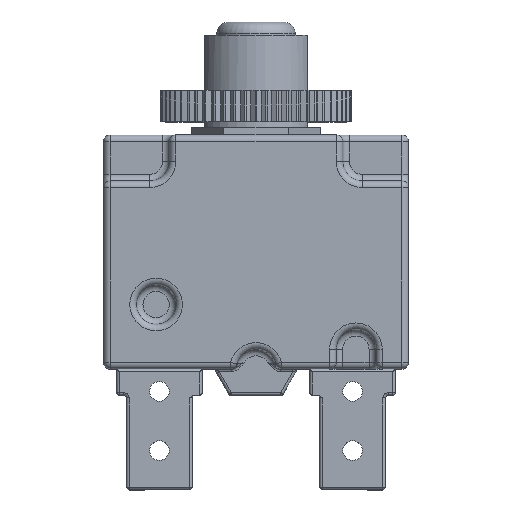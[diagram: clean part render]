
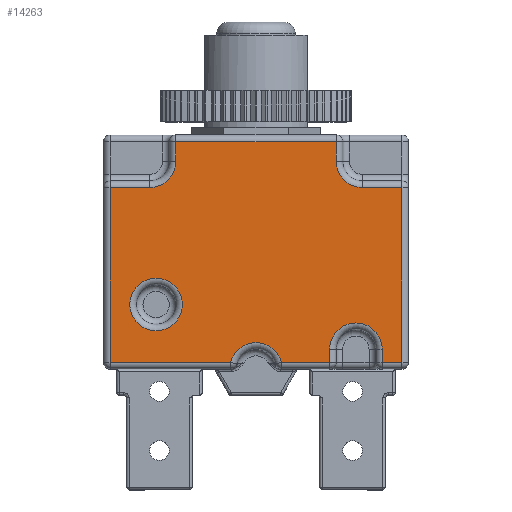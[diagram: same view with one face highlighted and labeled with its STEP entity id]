
A CAD part, top view. The second image highlights one B-rep face of the part: STEP entity #14263.
In plain terms, the highlighted planar face has unit normal (0, 0, 1).
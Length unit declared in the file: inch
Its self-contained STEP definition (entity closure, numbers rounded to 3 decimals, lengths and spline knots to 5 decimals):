
#114=FACE_BOUND('',#4067,.T.);
#393=PLANE('',#15408);
#653=LINE('',#22426,#1643);
#654=LINE('',#22434,#1644);
#655=LINE('',#22438,#1645);
#656=LINE('',#22440,#1646);
#657=LINE('',#22442,#1647);
#658=LINE('',#22444,#1648);
#659=LINE('',#22448,#1649);
#660=LINE('',#22450,#1650);
#661=LINE('',#22452,#1651);
#662=LINE('',#22456,#1652);
#663=LINE('',#22458,#1653);
#664=LINE('',#22460,#1654);
#1643=VECTOR('',#17487,0.3937);
#1644=VECTOR('',#17498,0.3937);
#1645=VECTOR('',#17501,0.3937);
#1646=VECTOR('',#17502,0.3937);
#1647=VECTOR('',#17503,0.3937);
#1648=VECTOR('',#17504,0.3937);
#1649=VECTOR('',#17507,0.3937);
#1650=VECTOR('',#17508,0.3937);
#1651=VECTOR('',#17509,0.3937);
#1652=VECTOR('',#17512,0.3937);
#1653=VECTOR('',#17513,0.3937);
#1654=VECTOR('',#17514,0.3937);
#3088=FACE_OUTER_BOUND('',#4066,.T.);
#4066=EDGE_LOOP('',(#9642,#9643,#9644,#9645,#9646,#9647,#9648,#9649,#9650,
#9651,#9652,#9653,#9654,#9655,#9656,#9657));
#4067=EDGE_LOOP('',(#9658));
#5068=CIRCLE('',#15409,0.1);
#5069=CIRCLE('',#15410,0.1);
#5070=CIRCLE('',#15411,0.1);
#5071=CIRCLE('',#15412,0.1);
#5072=CIRCLE('',#15413,0.1);
#6064=VERTEX_POINT('',#22419);
#6066=VERTEX_POINT('',#22425);
#6068=VERTEX_POINT('',#22433);
#6069=VERTEX_POINT('',#22435);
#6070=VERTEX_POINT('',#22437);
#6071=VERTEX_POINT('',#22439);
#6072=VERTEX_POINT('',#22441);
#6073=VERTEX_POINT('',#22443);
#6074=VERTEX_POINT('',#22445);
#6075=VERTEX_POINT('',#22447);
#6076=VERTEX_POINT('',#22449);
#6077=VERTEX_POINT('',#22451);
#6078=VERTEX_POINT('',#22453);
#6079=VERTEX_POINT('',#22455);
#6080=VERTEX_POINT('',#22457);
#6081=VERTEX_POINT('',#22459);
#6082=VERTEX_POINT('',#22462);
#7357=EDGE_CURVE('',#6064,#6066,#653,.T.);
#7361=EDGE_CURVE('',#6068,#6064,#654,.T.);
#7362=EDGE_CURVE('',#6069,#6068,#5068,.T.);
#7363=EDGE_CURVE('',#6070,#6069,#655,.T.);
#7364=EDGE_CURVE('',#6071,#6070,#656,.T.);
#7365=EDGE_CURVE('',#6072,#6071,#657,.T.);
#7366=EDGE_CURVE('',#6073,#6072,#658,.T.);
#7367=EDGE_CURVE('',#6074,#6073,#5069,.T.);
#7368=EDGE_CURVE('',#6075,#6074,#659,.T.);
#7369=EDGE_CURVE('',#6076,#6075,#660,.T.);
#7370=EDGE_CURVE('',#6077,#6076,#661,.T.);
#7371=EDGE_CURVE('',#6078,#6077,#5070,.T.);
#7372=EDGE_CURVE('',#6079,#6078,#662,.T.);
#7373=EDGE_CURVE('',#6080,#6079,#663,.T.);
#7374=EDGE_CURVE('',#6081,#6080,#664,.T.);
#7375=EDGE_CURVE('',#6066,#6081,#5071,.T.);
#7376=EDGE_CURVE('',#6082,#6082,#5072,.T.);
#9642=ORIENTED_EDGE('',*,*,#7357,.F.);
#9643=ORIENTED_EDGE('',*,*,#7361,.F.);
#9644=ORIENTED_EDGE('',*,*,#7362,.F.);
#9645=ORIENTED_EDGE('',*,*,#7363,.F.);
#9646=ORIENTED_EDGE('',*,*,#7364,.F.);
#9647=ORIENTED_EDGE('',*,*,#7365,.F.);
#9648=ORIENTED_EDGE('',*,*,#7366,.F.);
#9649=ORIENTED_EDGE('',*,*,#7367,.F.);
#9650=ORIENTED_EDGE('',*,*,#7368,.F.);
#9651=ORIENTED_EDGE('',*,*,#7369,.F.);
#9652=ORIENTED_EDGE('',*,*,#7370,.F.);
#9653=ORIENTED_EDGE('',*,*,#7371,.F.);
#9654=ORIENTED_EDGE('',*,*,#7372,.F.);
#9655=ORIENTED_EDGE('',*,*,#7373,.F.);
#9656=ORIENTED_EDGE('',*,*,#7374,.F.);
#9657=ORIENTED_EDGE('',*,*,#7375,.F.);
#9658=ORIENTED_EDGE('',*,*,#7376,.F.);
#14263=ADVANCED_FACE('',(#3088,#114),#393,.T.);
#15408=AXIS2_PLACEMENT_3D('',#22432,#17496,#17497);
#15409=AXIS2_PLACEMENT_3D('',#22436,#17499,#17500);
#15410=AXIS2_PLACEMENT_3D('',#22446,#17505,#17506);
#15411=AXIS2_PLACEMENT_3D('',#22454,#17510,#17511);
#15412=AXIS2_PLACEMENT_3D('',#22461,#17515,#17516);
#15413=AXIS2_PLACEMENT_3D('',#22463,#17517,#17518);
#17487=DIRECTION('',(-1.,0.,0.));
#17496=DIRECTION('center_axis',(0.,0.,1.));
#17497=DIRECTION('ref_axis',(1.,0.,0.));
#17498=DIRECTION('',(0.,-1.,0.));
#17499=DIRECTION('center_axis',(0.,0.,1.));
#17500=DIRECTION('ref_axis',(0.,1.,0.));
#17501=DIRECTION('',(0.,1.,0.));
#17502=DIRECTION('',(-1.,0.,0.));
#17503=DIRECTION('',(0.,-1.,0.));
#17504=DIRECTION('',(1.,0.,0.));
#17505=DIRECTION('center_axis',(0.,0.,1.));
#17506=DIRECTION('ref_axis',(-0.707,-0.707,0.));
#17507=DIRECTION('',(0.,-1.,0.));
#17508=DIRECTION('',(1.,0.,0.));
#17509=DIRECTION('',(0.,1.,0.));
#17510=DIRECTION('center_axis',(0.,0.,1.));
#17511=DIRECTION('ref_axis',(0.707,-0.707,0.));
#17512=DIRECTION('',(1.,0.,0.));
#17513=DIRECTION('',(0.,1.,0.));
#17514=DIRECTION('',(-1.,0.,0.));
#17515=DIRECTION('center_axis',(0.,0.,1.));
#17516=DIRECTION('ref_axis',(0.,1.,0.));
#17517=DIRECTION('center_axis',(0.,0.,1.));
#17518=DIRECTION('ref_axis',(-1.,0.,0.));
#22419=CARTESIAN_POINT('',(0.86,-0.42,0.57));
#22425=CARTESIAN_POINT('',(0.67682,-0.42,0.57));
#22426=CARTESIAN_POINT('',(0.29,-0.42,0.57));
#22432=CARTESIAN_POINT('Origin',(0.,0.,0.57));
#22433=CARTESIAN_POINT('',(0.86,-0.37,0.57));
#22434=CARTESIAN_POINT('',(0.86,-0.2225,0.57));
#22435=CARTESIAN_POINT('',(1.06,-0.37,0.57));
#22436=CARTESIAN_POINT('Origin',(0.96,-0.37,0.57));
#22437=CARTESIAN_POINT('',(1.06,-0.42,0.57));
#22438=CARTESIAN_POINT('',(1.06,-0.185,0.57));
#22439=CARTESIAN_POINT('',(1.135,-0.42,0.57));
#22440=CARTESIAN_POINT('',(0.29,-0.42,0.57));
#22441=CARTESIAN_POINT('',(1.135,0.245,0.57));
#22442=CARTESIAN_POINT('',(1.135,0.,0.57));
#22443=CARTESIAN_POINT('',(0.985,0.245,0.57));
#22444=CARTESIAN_POINT('',(0.4925,0.245,0.57));
#22445=CARTESIAN_POINT('',(0.885,0.345,0.57));
#22446=CARTESIAN_POINT('Origin',(0.985,0.345,0.57));
#22447=CARTESIAN_POINT('',(0.885,0.42,0.57));
#22448=CARTESIAN_POINT('',(0.885,0.2225,0.57));
#22449=CARTESIAN_POINT('',(0.275,0.42,0.57));
#22450=CARTESIAN_POINT('',(0.29,0.42,0.57));
#22451=CARTESIAN_POINT('',(0.275,0.345,0.57));
#22452=CARTESIAN_POINT('',(0.275,0.2225,0.57));
#22453=CARTESIAN_POINT('',(0.175,0.245,0.57));
#22454=CARTESIAN_POINT('Origin',(0.175,0.345,0.57));
#22455=CARTESIAN_POINT('',(0.025,0.245,0.57));
#22456=CARTESIAN_POINT('',(0.0875,0.245,0.57));
#22457=CARTESIAN_POINT('',(0.025,-0.42,0.57));
#22458=CARTESIAN_POINT('',(0.025,0.,0.57));
#22459=CARTESIAN_POINT('',(0.48318,-0.42,0.57));
#22460=CARTESIAN_POINT('',(0.29,-0.42,0.57));
#22461=CARTESIAN_POINT('Origin',(0.58,-0.445,0.57));
#22462=CARTESIAN_POINT('',(0.3,-0.2,0.57));
#22463=CARTESIAN_POINT('Origin',(0.2,-0.2,0.57));
